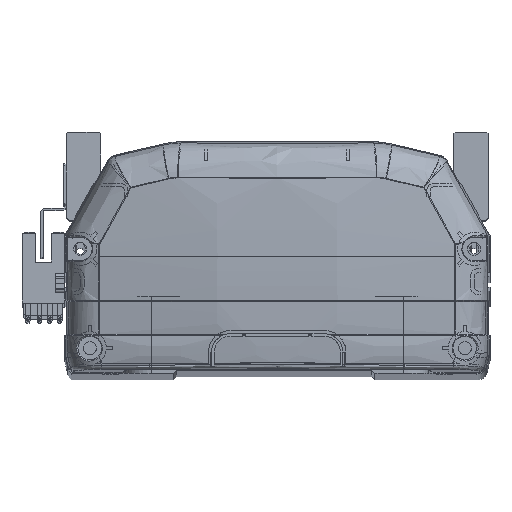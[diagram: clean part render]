
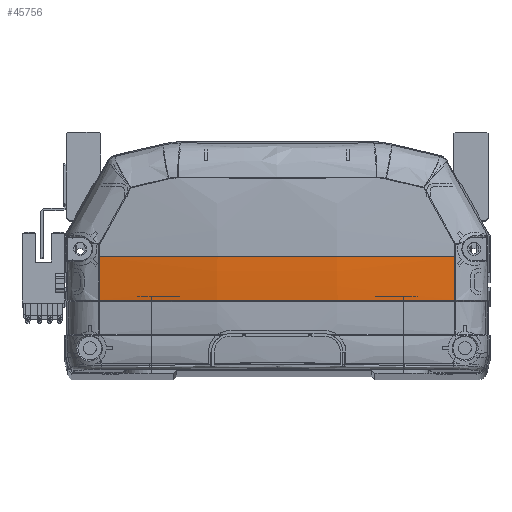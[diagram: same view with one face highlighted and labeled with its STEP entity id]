
A CAD part, top view. The second image highlights one B-rep face of the part: STEP entity #45756.
In plain terms, the highlighted free-form (B-spline) face has degree [3, 3] with [4, 4] control points.
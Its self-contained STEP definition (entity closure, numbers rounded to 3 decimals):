
#1952 = B_SPLINE_CURVE_WITH_KNOTS ( 'NONE', 3,
 ( #28346, #43824, #2940, #32034 ),
 .UNSPECIFIED., .F., .F.,
 ( 4, 4 ),
 ( 0., 1. ),
 .UNSPECIFIED. ) ;
#2065 = EDGE_CURVE ( 'NONE', #36101, #18450, #21038, .T. ) ;
#2940 = CARTESIAN_POINT ( 'NONE',  ( -56.652, 26.814, -5.045 ) ) ;
#3116 = CARTESIAN_POINT ( 'NONE',  ( -56.661, 22.225, -4.818 ) ) ;
#4015 = CARTESIAN_POINT ( 'NONE',  ( 57.335, 22.148, -4.7 ) ) ;
#4455 = DIRECTION ( 'NONE',  ( 0., 0., -1. ) ) ;
#6987 = CARTESIAN_POINT ( 'NONE',  ( 56.647, 35.969, -5.158 ) ) ;
#7225 = CARTESIAN_POINT ( 'NONE',  ( 19.295, 26.549, -11.419 ) ) ;
#7678 =( BOUNDED_SURFACE ( )  B_SPLINE_SURFACE ( 3, 3, ( 
 ( #4015, #11201, #33260, #32960 ),
 ( #40376, #7225, #40209, #11053 ),
 ( #29566, #29712, #7693, #14440 ),
 ( #11360, #22012, #25870, #36983 ) ),
 .UNSPECIFIED., .F., .F., .F. ) 
 B_SPLINE_SURFACE_WITH_KNOTS ( ( 4, 4 ),
 ( 4, 4 ),
 ( 0., 1. ),
 ( 0., 1. ),
 .UNSPECIFIED. ) 
 GEOMETRIC_REPRESENTATION_ITEM ( )  RATIONAL_B_SPLINE_SURFACE ( (
 ( 1., 1., 1., 1.),
 ( 0.99, 0.99, 0.99, 0.99),
 ( 0.99, 0.99, 0.99, 0.99),
 ( 1., 1., 1., 1.) ) ) 
 REPRESENTATION_ITEM ( '' )  SURFACE ( )  );
#7693 = CARTESIAN_POINT ( 'NONE',  ( -19.295, 31.274, -11.535 ) ) ;
#8502 = CIRCLE ( 'NONE', #15473, 6395.966 ) ;
#10312 = CARTESIAN_POINT ( 'NONE',  ( 19.121, 22.225, -9.064 ) ) ;
#10619 = CARTESIAN_POINT ( 'NONE',  ( -38.235, 22.225, -7.93 ) ) ;
#10785 = CIRCLE ( 'NONE', #43603, 340.733 ) ;
#11053 = CARTESIAN_POINT ( 'NONE',  ( 19.295, 36., -11.535 ) ) ;
#11201 = CARTESIAN_POINT ( 'NONE',  ( 57.335, 26.762, -4.928 ) ) ;
#11360 = CARTESIAN_POINT ( 'NONE',  ( -57.335, 22.148, -4.7 ) ) ;
#13702 = CARTESIAN_POINT ( 'NONE',  ( 56.661, 22.225, -4.818 ) ) ;
#13810 = EDGE_CURVE ( 'NONE', #17450, #42932, #8502, .T. ) ;
#14031 = CARTESIAN_POINT ( 'NONE',  ( 47.432, 22.225, -6.377 ) ) ;
#14440 = CARTESIAN_POINT ( 'NONE',  ( -19.295, 36., -11.535 ) ) ;
#15473 = AXIS2_PLACEMENT_3D ( 'NONE', #45513, #34721, #34876 ) ;
#17450 = VERTEX_POINT ( 'NONE', #6987 ) ;
#17899 = CARTESIAN_POINT ( 'NONE',  ( 11.954, 22.225, -9.367 ) ) ;
#18204 = CARTESIAN_POINT ( 'NONE',  ( 8.363, 22.225, -9.48 ) ) ;
#18450 = VERTEX_POINT ( 'NONE', #25160 ) ;
#18674 = CARTESIAN_POINT ( 'NONE',  ( 56.661, 22.225, -4.818 ) ) ;
#18976 = EDGE_LOOP ( 'NONE', ( #47246, #36089, #43096, #40708, #24986 ) ) ;
#21038 = B_SPLINE_CURVE_WITH_KNOTS ( 'NONE', 3,
 ( #39643, #14031, #28987, #32385, #10312, #17899, #18204, #47215, #21729, #29300, #33018, #10619, #3116 ),
 .UNSPECIFIED., .F., .F.,
 ( 4, 2, 2, 1, 2, 2, 4 ),
 ( 0., 0.25, 0.375, 0.438, 0.469, 0.5, 1. ),
 .UNSPECIFIED. ) ;
#21729 = CARTESIAN_POINT ( 'NONE',  ( 2.357, 22.225, -9.562 ) ) ;
#22012 = CARTESIAN_POINT ( 'NONE',  ( -57.335, 26.762, -4.928 ) ) ;
#24247 = CARTESIAN_POINT ( 'NONE',  ( 56.647, 36., -5.158 ) ) ;
#24986 = ORIENTED_EDGE ( 'NONE', *, *, #34113, .F. ) ;
#25160 = CARTESIAN_POINT ( 'NONE',  ( -56.661, 22.225, -4.818 ) ) ;
#25870 = CARTESIAN_POINT ( 'NONE',  ( -57.335, 31.38, -5.042 ) ) ;
#26076 = CARTESIAN_POINT ( 'NONE',  ( 56.647, 35.969, -5.158 ) ) ;
#26318 = CARTESIAN_POINT ( 'NONE',  ( 0., 36., 330.833 ) ) ;
#26479 = DIRECTION ( 'NONE',  ( 0., 1., 0. ) ) ;
#28346 = CARTESIAN_POINT ( 'NONE',  ( -56.647, 36., -5.158 ) ) ;
#28600 = FACE_OUTER_BOUND ( 'NONE', #18976, .T. ) ;
#28987 = CARTESIAN_POINT ( 'NONE',  ( 38.071, 22.225, -7.566 ) ) ;
#29300 = CARTESIAN_POINT ( 'NONE',  ( 1.152, 22.225, -9.568 ) ) ;
#29566 = CARTESIAN_POINT ( 'NONE',  ( -19.295, 21.828, -11.186 ) ) ;
#29712 = CARTESIAN_POINT ( 'NONE',  ( -19.295, 26.549, -11.419 ) ) ;
#32034 = CARTESIAN_POINT ( 'NONE',  ( -56.661, 22.225, -4.818 ) ) ;
#32385 = CARTESIAN_POINT ( 'NONE',  ( 23.877, 22.225, -8.763 ) ) ;
#32960 = CARTESIAN_POINT ( 'NONE',  ( 57.335, 36., -5.042 ) ) ;
#33018 = CARTESIAN_POINT ( 'NONE',  ( -19.28, 22.225, -9.565 ) ) ;
#33260 = CARTESIAN_POINT ( 'NONE',  ( 57.335, 31.38, -5.042 ) ) ;
#34113 = EDGE_CURVE ( 'NONE', #38465, #18450, #1952, .T. ) ;
#34721 = DIRECTION ( 'NONE',  ( 0., 0., -1. ) ) ;
#34876 = DIRECTION ( 'NONE',  ( -1., 0., 0. ) ) ;
#36089 = ORIENTED_EDGE ( 'NONE', *, *, #13810, .F. ) ;
#36101 = VERTEX_POINT ( 'NONE', #13702 ) ;
#36723 = EDGE_CURVE ( 'NONE', #42932, #38465, #10785, .T. ) ;
#36983 = CARTESIAN_POINT ( 'NONE',  ( -57.335, 36., -5.042 ) ) ;
#37399 = CARTESIAN_POINT ( 'NONE',  ( -56.647, 36., -5.158 ) ) ;
#38465 = VERTEX_POINT ( 'NONE', #37399 ) ;
#39643 = CARTESIAN_POINT ( 'NONE',  ( 56.661, 22.225, -4.818 ) ) ;
#40209 = CARTESIAN_POINT ( 'NONE',  ( 19.295, 31.274, -11.535 ) ) ;
#40376 = CARTESIAN_POINT ( 'NONE',  ( 19.295, 21.828, -11.186 ) ) ;
#40395 = EDGE_CURVE ( 'NONE', #36101, #17450, #47376, .T. ) ;
#40708 = ORIENTED_EDGE ( 'NONE', *, *, #2065, .T. ) ;
#42932 = VERTEX_POINT ( 'NONE', #24247 ) ;
#43096 = ORIENTED_EDGE ( 'NONE', *, *, #40395, .F. ) ;
#43603 = AXIS2_PLACEMENT_3D ( 'NONE', #26318, #26479, #4455 ) ;
#43824 = CARTESIAN_POINT ( 'NONE',  ( -56.647, 31.405, -5.158 ) ) ;
#44485 = CARTESIAN_POINT ( 'NONE',  ( 56.647, 31.387, -5.158 ) ) ;
#45513 = CARTESIAN_POINT ( 'NONE',  ( 6452.613, 35.969, -5.158 ) ) ;
#45756 = ADVANCED_FACE ( 'NONE', ( #28600 ), #7678, .T. ) ;
#47215 = CARTESIAN_POINT ( 'NONE',  ( 4.761, 22.225, -9.537 ) ) ;
#47246 = ORIENTED_EDGE ( 'NONE', *, *, #36723, .F. ) ;
#47376 = B_SPLINE_CURVE_WITH_KNOTS ( 'NONE', 3,
 ( #18674, #47681, #44485, #26076 ),
 .UNSPECIFIED., .F., .F.,
 ( 4, 4 ),
 ( 0., 1. ),
 .UNSPECIFIED. ) ;
#47681 = CARTESIAN_POINT ( 'NONE',  ( 56.652, 26.806, -5.044 ) ) ;
